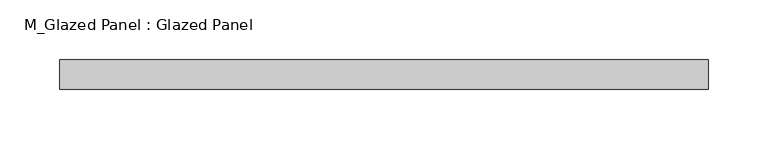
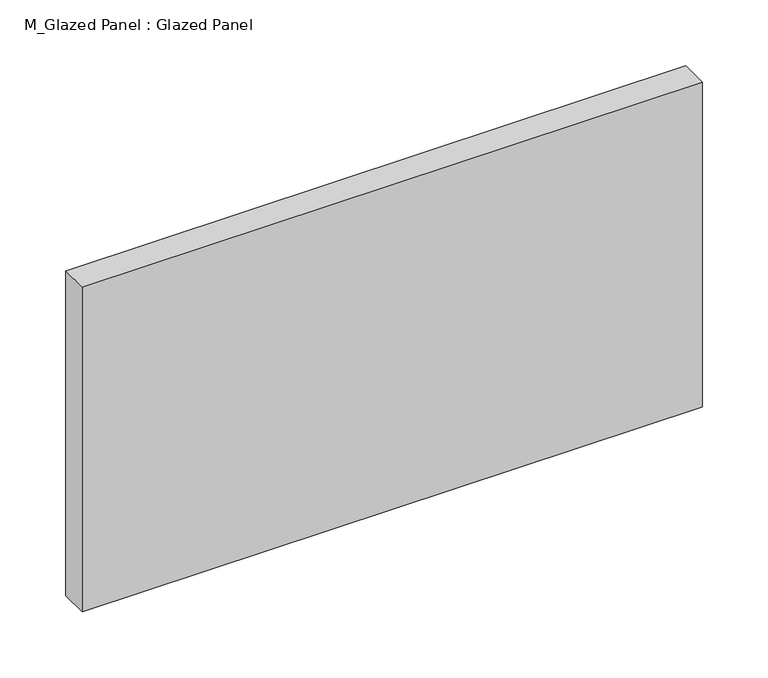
"""IFC4 building model written with IfcOpenShell, lengths in millimetres: plate geometry, M_Glazed Panel : Glazed Panel."""

from ifc_helpers import new_model, si_unit, origin, origin_with_axes, place, context, project, spatial, polyline, outline, extrude, source, transform, mapped, element, save


def m_glazed_panel_glazed_panel_9a824eb0(model_context):
    return source(origin(), model_context, "Body", "SweptSolid", [
        extrude(outline(polyline([(272.5, 38.5), (-272.5, 38.5), (-272.5, 63.5), (272.5, 63.5), (272.5, 38.5)])), origin_with_axes(), (0.0, 0.0, 1.0), 301.9650626),
    ])


if __name__ == "__main__":
    model = new_model("IFC4")
    model_context = context("Model", 3, world=origin())
    ifc_project = project(units=[si_unit("LENGTHUNIT", "METRE", prefix="MILLI")], contexts=[model_context])
    site = spatial("IfcSite", under=ifc_project)
    building = spatial("IfcBuilding", under=site)
    placement = place(None, origin())
    m_glazed_panel_glazed_panel_shape = m_glazed_panel_glazed_panel_9a824eb0(model_context)
    element("IfcPlate", 1, ObjectType="M_Glazed Panel : Glazed Panel", at=placement, inside=building, context=model_context, shape_type="MappedRepresentation", body=[
        mapped(m_glazed_panel_glazed_panel_shape, transform((0.0, 0.0, 0.0), x_axis=(1.0, 0.0, 0.0), y_axis=(0.0, 1.0, 0.0), z_axis=(0.0, 0.0, 1.0))),
    ])
    save(model, "model.ifc")
